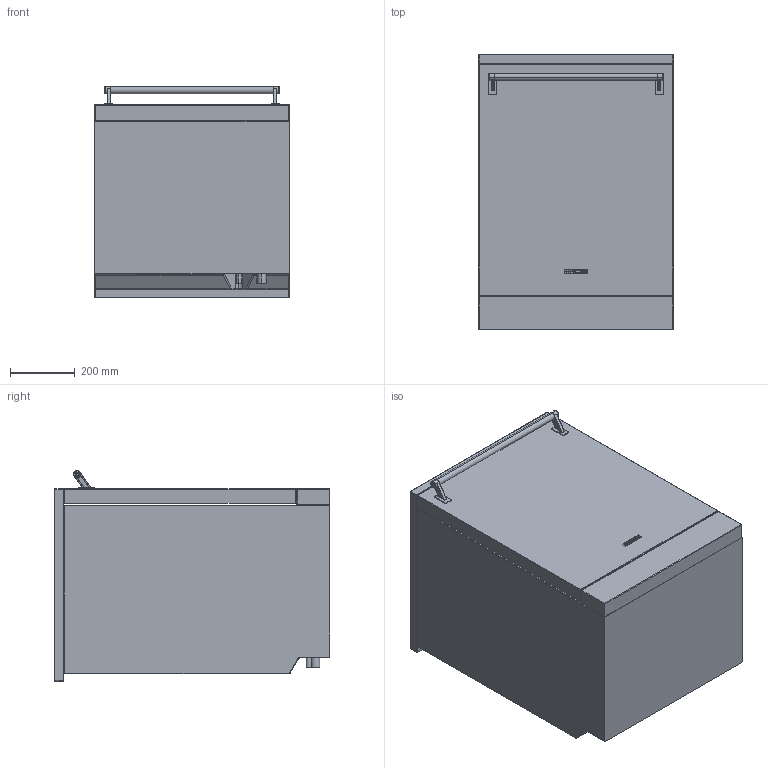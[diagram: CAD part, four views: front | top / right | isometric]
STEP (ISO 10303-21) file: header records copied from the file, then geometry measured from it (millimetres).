
FILE_DESCRIPTION (( 'STEP AP214' ), '1' );
FILE_NAME ('STX60 h850 libera istallazione.STEP', '2023-04-04T11:41:36', ( '' ), ( '' ), 'SwSTEP 2.0', 'SolidWorks 2021', '' );
FILE_SCHEMA (( 'AUTOMOTIVE_DESIGN' ));
Length unit declared in the file: millimetre
Products named in the file (1): STX60 h850 libera istallazione
Bounding box: 598 x 848 x 649 mm (x, y, z)
Volume: 284115132.8 mm3; surface area: 4449075 mm2
Topology: 9 solids, 9 shells, 533 faces, 1318 edges, 801 vertices
Faces by surface type: plane 228, cylinder 215, bspline 39, sphere 25, torus 22, cone 4
Entity records: 16072 total; most frequent: CARTESIAN_POINT 3703, ORIENTED_EDGE 2578, DIRECTION 2567, EDGE_CURVE 1289, AXIS2_PLACEMENT_3D 907, VERTEX_POINT 797, VECTOR 753, LINE 753
